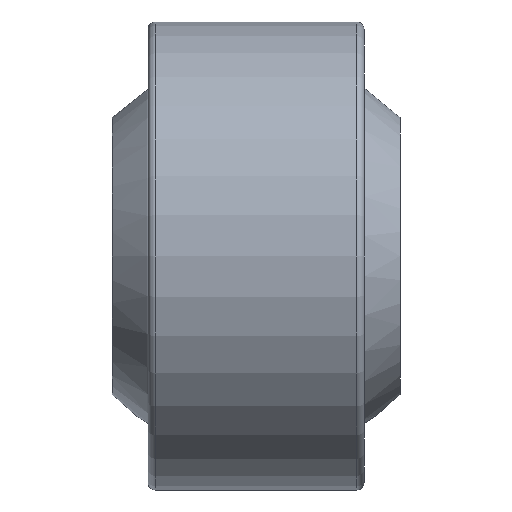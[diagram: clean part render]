
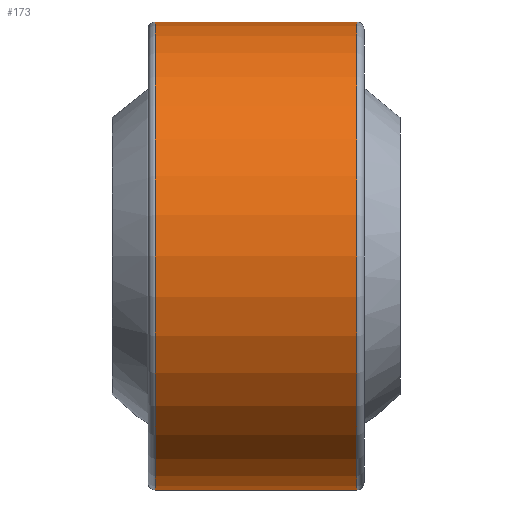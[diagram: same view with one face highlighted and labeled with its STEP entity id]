
A CAD part, front view. The second image highlights one B-rep face of the part: STEP entity #173.
In plain terms, the highlighted cylindrical face has radius 6.5 mm (diameter 13 mm), a full revolution.
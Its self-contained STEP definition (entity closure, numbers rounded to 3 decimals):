
#173 = ADVANCED_FACE( '', ( #193, #194 ), #195, .T. );
#193 = FACE_OUTER_BOUND( '', #224, .T. );
#194 = FACE_OUTER_BOUND( '', #225, .T. );
#195 = CYLINDRICAL_SURFACE( '', #226, 6.5 );
#224 = EDGE_LOOP( '', ( #262 ) );
#225 = EDGE_LOOP( '', ( #263 ) );
#226 = AXIS2_PLACEMENT_3D( '', #264, #265, #266 );
#262 = ORIENTED_EDGE( '', *, *, #297, .T. );
#263 = ORIENTED_EDGE( '', *, *, #296, .F. );
#264 = CARTESIAN_POINT( '', ( 3., 0., 0. ) );
#265 = DIRECTION( '', ( -1., 0., 0. ) );
#266 = DIRECTION( '', ( 0., 0., -1. ) );
#296 = EDGE_CURVE( '', #310, #310, #311, .T. );
#297 = EDGE_CURVE( '', #312, #312, #313, .T. );
#310 = VERTEX_POINT( '', #330 );
#311 = CIRCLE( '', #331, 6.5 );
#312 = VERTEX_POINT( '', #332 );
#313 = CIRCLE( '', #333, 6.5 );
#330 = CARTESIAN_POINT( '', ( 2.8, 0., -6.5 ) );
#331 = AXIS2_PLACEMENT_3D( '', #354, #355, #356 );
#332 = CARTESIAN_POINT( '', ( -2.8, 0., -6.5 ) );
#333 = AXIS2_PLACEMENT_3D( '', #357, #358, #359 );
#354 = CARTESIAN_POINT( '', ( 2.8, 0., 0. ) );
#355 = DIRECTION( '', ( 1., 0., 0. ) );
#356 = DIRECTION( '', ( 0., 0., -1. ) );
#357 = CARTESIAN_POINT( '', ( -2.8, 0., 0. ) );
#358 = DIRECTION( '', ( 1., 0., 0. ) );
#359 = DIRECTION( '', ( 0., 0., -1. ) );
